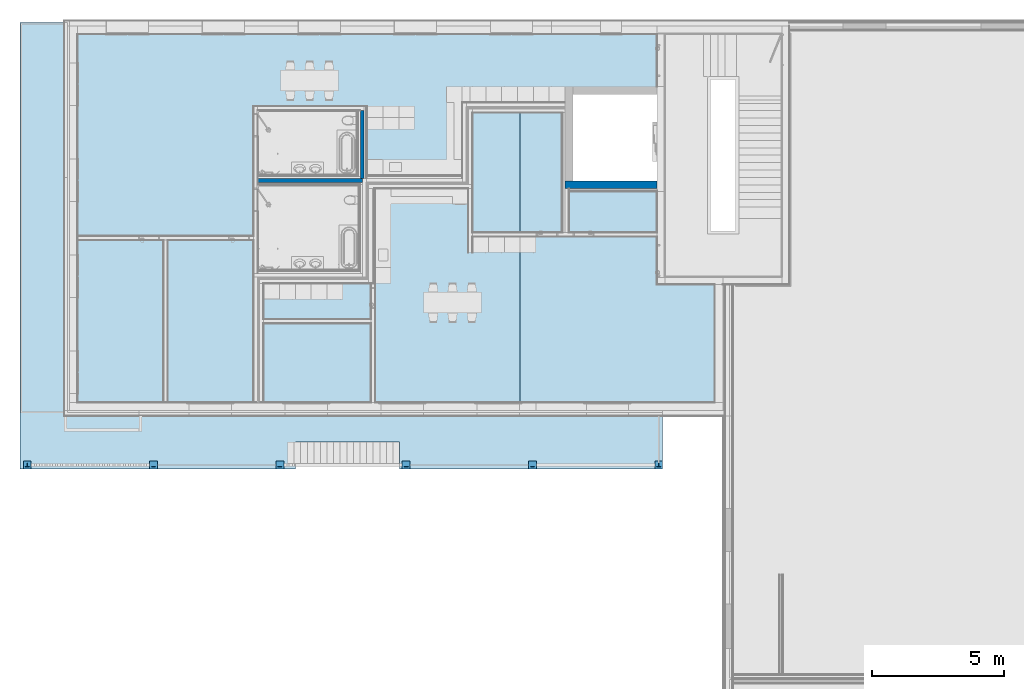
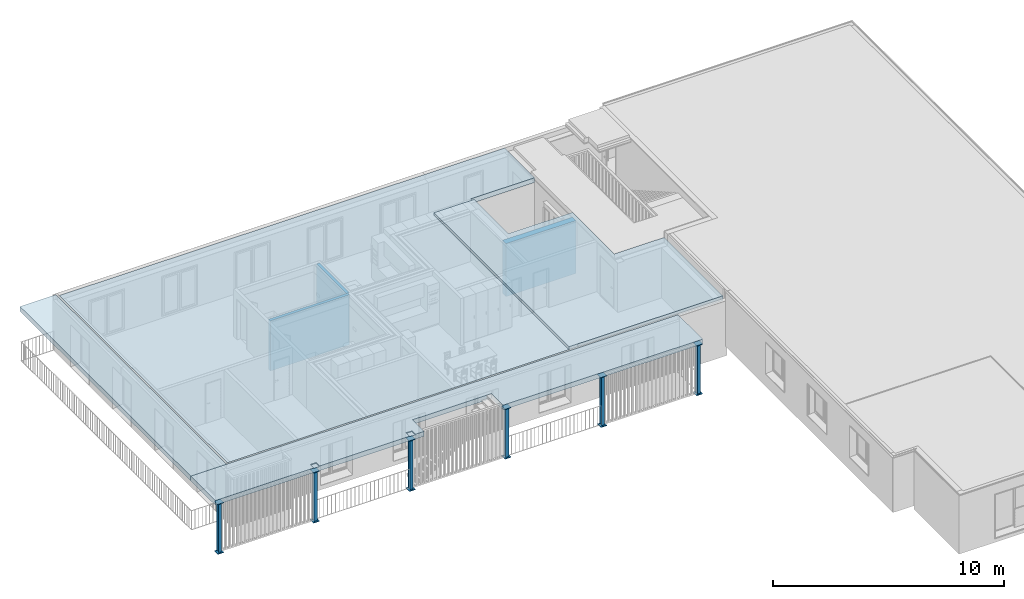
# One storey, part 1 of 34: 6 columns, 4 slabs, 3 walls.
"""IFC4 building model written with IfcOpenShell, lengths in millimetres."""

import ifcopenshell
import ifcopenshell.guid

model = None  # the IFC model being written
_history = None  # IfcOwnerHistory: only IFC2X3 demands one
_inside = {}  # id of a spatial element -> (the spatial element, [elements in it])
_under = {}  # id of a project, library or spatial element -> (it, [spatial elements below it])
_declared = {}  # id of a project -> (the project, [libraries it declares])
_typed = {}  # id of a type object -> (the type object, [elements of that type])
_made_of = {}  # id of a material, layer set ... -> (it, [elements and type objects made of it])


def new_model(schema):
    """Start an empty IFC model of exactly this schema.

    Asked for "IFC4X3", IfcOpenShell would pick the latest addendum, in which some entities
    have other attributes; the version numbers below select the first issue.
    IFC2X3 requires an IfcOwnerHistory on every rooted entity: one is made here for all.
    """
    global model, _history
    if schema == "IFC4X3":
        model = ifcopenshell.file(schema_version=(4, 3, 0, 0))
    else:
        model = ifcopenshell.file(schema=schema)
    _inside.clear()
    _under.clear()
    _declared.clear()
    _typed.clear()
    _made_of.clear()
    _history = None
    if model.schema == "IFC2X3":
        org = make("IfcOrganization", Name="unknown")
        user = make(
            "IfcPersonAndOrganization",
            ThePerson=make("IfcPerson", FamilyName="unknown"),
            TheOrganization=org,
        )
        app = make(
            "IfcApplication",
            ApplicationDeveloper=org,
            Version="unknown",
            ApplicationFullName="unknown",
            ApplicationIdentifier="unknown",
        )
        _history = make(
            "IfcOwnerHistory",
            OwningUser=user,
            OwningApplication=app,
            ChangeAction="ADDED",
            CreationDate=0,
        )
    return model


def make(cls, **values):
    """One entity of the class cls with the attributes given. An attribute that is None is left unset."""
    return model.create_entity(
        cls, **{name: value for name, value in values.items() if value is not None}
    )


def entity(cls, *values):
    """Any entity or typed value of the class cls, its attributes in the order of the schema. None: left unset."""
    e = model.create_entity(cls)
    for i, value in enumerate(values):
        if value is not None:
            e[i] = value
    return e


def rooted(cls, **values):
    """An entity with a GlobalId (a new one), such as an element, a storey or a relation."""
    return make(cls, GlobalId=ifcopenshell.guid.new(), OwnerHistory=_history, **values)


def si_unit(unit_type, name, prefix=None):
    """IfcSIUnit, for example si_unit("LENGTHUNIT", "METRE", prefix="MILLI")."""
    return make("IfcSIUnit", UnitType=unit_type, Prefix=prefix, Name=name)


def converted_unit(unit_type, name, factor, base, dimensions=None, offset=None):
    """IfcConversionBasedUnit, such as the inch: factor (a typed value) times the base unit."""
    return make(
        "IfcConversionBasedUnit"
        if offset is None
        else "IfcConversionBasedUnitWithOffset",
        ConversionOffset=offset,
        Dimensions=None
        if dimensions is None
        else entity("IfcDimensionalExponents", *dimensions),
        UnitType=unit_type,
        Name=name,
        ConversionFactor=make(
            "IfcMeasureWithUnit", ValueComponent=factor, UnitComponent=base
        ),
    )


def derived_unit(unit_type, elements):
    """IfcDerivedUnit: a product of units, each with its exponent."""
    return make(
        "IfcDerivedUnit",
        Elements=[
            make("IfcDerivedUnitElement", Unit=unit, Exponent=power)
            for unit, power in elements
        ],
        UnitType=unit_type,
    )


def assignment(units):
    """IfcUnitAssignment: the units of a project."""
    return None if units is None else make("IfcUnitAssignment", Units=units)


def point(xyz):
    """IfcCartesianPoint."""
    return None if xyz is None else make("IfcCartesianPoint", Coordinates=xyz)


def direction(xyz):
    """IfcDirection."""
    return None if xyz is None else make("IfcDirection", DirectionRatios=xyz)


def frame(location, z_axis=None, x_axis=None):
    """IfcAxis2Placement3D, a coordinate frame: its origin and axes. An axis left out is left unset."""
    return make(
        "IfcAxis2Placement3D",
        Location=point(location),
        Axis=direction(z_axis),
        RefDirection=direction(x_axis),
    )


def origin_with_axes():
    """The frame at (0, 0, 0) with the z axis (0, 0, 1) and the x axis (1, 0, 0) written out."""
    return frame((0.0, 0.0, 0.0), z_axis=(0.0, 0.0, 1.0), x_axis=(1.0, 0.0, 0.0))


def place(relative_to, where):
    """IfcLocalPlacement: puts the frame where relative to a parent placement (None: the world)."""
    return make(
        "IfcLocalPlacement", PlacementRelTo=relative_to, RelativePlacement=where
    )


def context(
    kind, dimensions, precision=None, world=None, true_north=None, identifier=None
):
    """IfcGeometricRepresentationContext, for example the 3D "Model" context."""
    return make(
        "IfcGeometricRepresentationContext",
        ContextIdentifier=identifier,
        ContextType=kind,
        CoordinateSpaceDimension=dimensions,
        Precision=precision,
        WorldCoordinateSystem=world,
        TrueNorth=true_north,
    )


def subcontext(parent, identifier, kind, view, scale=None):
    """IfcGeometricRepresentationSubContext, for example "Body" below "Model"."""
    return make(
        "IfcGeometricRepresentationSubContext",
        ContextIdentifier=identifier,
        ContextType=kind,
        ParentContext=parent,
        TargetScale=scale,
        TargetView=view,
    )


def project(units=None, contexts=None):
    """IfcProject with its units and contexts."""
    return rooted(
        "IfcProject",
        Name="project",
        RepresentationContexts=contexts,
        UnitsInContext=assignment(units),
    )


def spatial(cls, under=None, at=None, **own):
    """A site, building, storey or space (cls), placed at a placement, below another one or the project."""
    s = rooted(cls, ObjectPlacement=at, **own)
    if under is not None:
        _under.setdefault(under.id(), (under, []))[1].append(s)
    return s


def point_list(points):
    """IfcCartesianPointList2D or 3D."""
    cls = (
        "IfcCartesianPointList2D" if len(points[0]) == 2 else "IfcCartesianPointList3D"
    )
    return make(cls, CoordList=points)


def polygons(points, faces, closed=None, point_numbers=None):
    """IfcPolygonalFaceSet: a face is its outer loop, then its inner loops; points numbered from 1."""
    made = []
    for loops in faces:
        if len(loops) == 1:
            made.append(make("IfcIndexedPolygonalFace", CoordIndex=loops[0]))
        else:
            made.append(
                make(
                    "IfcIndexedPolygonalFaceWithVoids",
                    CoordIndex=loops[0],
                    InnerCoordIndices=loops[1:],
                )
            )
    return make(
        "IfcPolygonalFaceSet",
        Coordinates=point_list(points),
        Closed=closed,
        Faces=made,
        PnIndex=point_numbers,
    )


def shape(context_of_items, identifier, shape_type, items):
    """IfcShapeRepresentation: the items that make up one representation, for example the "Body"."""
    return make(
        "IfcShapeRepresentation",
        ContextOfItems=context_of_items,
        RepresentationIdentifier=identifier,
        RepresentationType=shape_type,
        Items=items,
    )


def material(Name=None, Category=None):
    """IfcMaterial."""
    return make("IfcMaterial", Name=Name, Category=Category)


def constituent(of_material, Name=None, Category=None, fraction=None):
    """IfcMaterialConstituent: one of the materials an element consists of."""
    return make(
        "IfcMaterialConstituent",
        Name=Name,
        Material=of_material,
        Fraction=fraction,
        Category=Category,
    )


def constituent_set(constituents=None, Name=None):
    """IfcMaterialConstituentSet."""
    return make(
        "IfcMaterialConstituentSet", Name=Name, MaterialConstituents=constituents
    )


def made_of(thing, what):
    """Note that an element or type object is made of a material, layer set ...; save() writes the relation."""
    if what is not None:
        _made_of.setdefault(what.id(), (what, []))[1].append(thing)
    return thing


def type_object(cls, material=None, **own):
    """A type object (cls), such as IfcWallType, which elements share."""
    return made_of(rooted(cls, **own), material)


def element(
    cls,
    number,
    at=None,
    inside=None,
    cuts=None,
    type_object=None,
    material=None,
    context=None,
    identifier="Body",
    shape_type=None,
    held_by="IfcProductDefinitionShape",
    body=None,
    shapes=None,
    **own,
):
    """One element of the class cls, such as IfcWall. Its Tag is "e" and its number.

    at: its placement. inside: the storey or other place that contains it. cuts: it is an
    opening in that element (IfcRelVoidsElement). A single representation is given by context,
    identifier, shape_type and body (its items); several are given by shapes. held_by: the class
    of the entity that holds the representations. save() writes the other relations.
    """
    e = rooted(cls, Tag="e%d" % number, ObjectPlacement=at, **own)
    if body is not None:
        shapes = [shape(context, identifier, shape_type, body)]
    if shapes is not None:
        e.Representation = make(held_by, Representations=shapes)
    if inside is not None:
        _inside.setdefault(inside.id(), (inside, []))[1].append(e)
    if cuts is not None:
        rooted(
            "IfcRelVoidsElement", RelatingBuildingElement=cuts, RelatedOpeningElement=e
        )
    if type_object is not None:
        _typed.setdefault(type_object.id(), (type_object, []))[1].append(e)
    return made_of(e, material)


def aggregate(whole, parts):
    """IfcRelAggregates: a whole, such as a stair, and the parts it consists of."""
    return rooted("IfcRelAggregates", RelatingObject=whole, RelatedObjects=parts)


def save(model, path):
    """Write the relations noted so far, then the file.

    IfcRelAggregates (storeys below a building ...), IfcRelContainedInSpatialStructure (elements
    in a storey), IfcRelDefinesByType, IfcRelAssociatesMaterial and IfcRelDeclares: one each for
    every whole, place, type object, material and project.
    """
    for whole, parts in _under.values():
        aggregate(whole, parts)
    for where, things in _inside.values():
        rooted(
            "IfcRelContainedInSpatialStructure",
            RelatedElements=things,
            RelatingStructure=where,
        )
    for kind, things in _typed.values():
        rooted("IfcRelDefinesByType", RelatedObjects=things, RelatingType=kind)
    for what, things in _made_of.values():
        rooted("IfcRelAssociatesMaterial", RelatedObjects=things, RelatingMaterial=what)
    for by, libraries in _declared.values():
        rooted("IfcRelDeclares", RelatingContext=by, RelatedDefinitions=libraries)
    model.write(path)


model = new_model("IFC4")

# Units and contexts
model_context = context("Model", 3, precision=0.01, world=origin_with_axes(), true_north=direction((0.0, 1.0)))
body_context = subcontext(model_context, "Body", "Model", "MODEL_VIEW")
ifc_project = project(units=[si_unit("LENGTHUNIT", "METRE", prefix="MILLI"), si_unit("AREAUNIT", "SQUARE_METRE"), si_unit("VOLUMEUNIT", "CUBIC_METRE"), converted_unit("PLANEANGLEUNIT", "DEGREE", entity("IfcPlaneAngleMeasure", 0.0174532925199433), si_unit("PLANEANGLEUNIT", "RADIAN"), dimensions=[0, 0, 0, 0, 0, 0, 0]), converted_unit("TIMEUNIT", "Year", entity("IfcTimeMeasure", 31557600.0), si_unit("TIMEUNIT", "SECOND"), dimensions=[0, 0, 1, 0, 0, 0, 0]), si_unit("MASSUNIT", "GRAM", prefix="KILO"), si_unit("THERMODYNAMICTEMPERATUREUNIT", "DEGREE_CELSIUS"), si_unit("LUMINOUSINTENSITYUNIT", "LUMEN"), si_unit("ENERGYUNIT", "JOULE", prefix="MEGA"), derived_unit("THERMALCONDUCTANCEUNIT", [(si_unit("POWERUNIT", "WATT"), 1), (si_unit("LENGTHUNIT", "METRE"), -1), (si_unit("THERMODYNAMICTEMPERATUREUNIT", "KELVIN"), -1)]), derived_unit("SPECIFICHEATCAPACITYUNIT", [(si_unit("ENERGYUNIT", "JOULE"), 1), (si_unit("MASSUNIT", "GRAM", prefix="KILO"), -1), (si_unit("THERMODYNAMICTEMPERATUREUNIT", "KELVIN"), -1)]), derived_unit("MASSDENSITYUNIT", [(si_unit("MASSUNIT", "GRAM", prefix="KILO"), 1), (si_unit("VOLUMEUNIT", "CUBIC_METRE"), -1)])], contexts=[model_context])

# Site, building, storey
site_placement = place(None, origin_with_axes())
site = spatial("IfcSite", under=ifc_project, at=site_placement, Name="Gelände", CompositionType="ELEMENT")
building_placement = place(site_placement, origin_with_axes())
building = spatial("IfcBuilding", under=site, at=building_placement, Name="Gebäude", CompositionType="ELEMENT")
storey_placement = place(building_placement, frame((0.0, 0.0, 2900.0), z_axis=(0.0, 0.0, 1.0), x_axis=(1.0, 0.0, 0.0)))
storey = spatial("IfcBuildingStorey", under=building, at=storey_placement, Name="1.OG", CompositionType="ELEMENT", Elevation=2900.0)

# Columns
ifc_material_1 = material(Name="Stahl")
ifc_constituent_1 = constituent(ifc_material_1, Name="Stahl 1")
ifc_constituent_2 = constituent(ifc_material_1, Name="Stahl 2")
ifc_constituent_3 = constituent(ifc_material_1, Name="Stahl 3")
ifc_constituent_set_1 = constituent_set(constituents=[ifc_constituent_1, ifc_constituent_2, ifc_constituent_3])
column_type_1 = type_object("IfcColumnType", Name="Verschiedene Strukturen - 3 Segmente - 300 x 300 x 2650 (30+2590+30)", PredefinedType="NOTDEFINED")
column_1_placement = place(storey_placement, frame((15487.99581849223, 21097.59674077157, 0.0), z_axis=(0.0, 0.0, 1.0), x_axis=(1.0, 0.0, 0.0)))
element("IfcColumn", 1, at=column_1_placement, inside=storey, type_object=column_type_1, material=ifc_constituent_set_1, Name="Stütze-015", PredefinedType="NOTDEFINED", context=body_context, shape_type="Tessellation", body=[
    polygons([(-150.0000000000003, -149.9999999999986, 29.9999999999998), (-150.0000000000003, -149.9999999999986, 0.0), (150.0000000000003, -149.9999999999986, 0.0), (150.0000000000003, -149.9999999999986, 29.9999999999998), (-150.0000000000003, 149.9999999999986, 29.9999999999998), (-150.0000000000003, 149.9999999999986, 0.0), (150.0000000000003, 149.9999999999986, 0.0), (150.0000000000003, 149.9999999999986, 29.9999999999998)], [[[1, 2, 3, 4]], [[5, 6, 2, 1]], [[3, 2, 6, 7]], [[4, 3, 7, 8]], [[5, 1, 4, 8]], [[8, 7, 6, 5]]], closed=True),
    polygons([(-80.00000000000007, 76.00000000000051, 2619.999948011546), (-80.00000000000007, 76.00000000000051, 29.9999999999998), (-80.00000000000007, 67.00000000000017, 29.9999999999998), (-80.00000000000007, 67.00000000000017, 2619.999948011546), (80.00000000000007, 76.00000000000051, 2619.999948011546), (80.00000000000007, 76.00000000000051, 29.9999999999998), (80.00000000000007, 67.00000000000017, 29.9999999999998), (3.000000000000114, 67.00000000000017, 29.9999999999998), (3.000000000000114, -67.00000000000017, 29.9999999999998), (80.00000000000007, -67.00000000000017, 29.9999999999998), (80.00000000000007, -76.00000000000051, 29.9999999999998), (-80.00000000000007, -76.00000000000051, 29.9999999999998), (-80.00000000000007, -67.00000000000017, 29.9999999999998), (-3.000000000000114, -67.00000000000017, 29.9999999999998), (-3.000000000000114, 67.00000000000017, 29.9999999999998), (-3.000000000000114, 67.00000000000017, 2619.999948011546), (-3.000000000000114, -67.00000000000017, 2619.999948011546), (-80.00000000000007, -67.00000000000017, 2619.999948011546), (-80.00000000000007, -76.00000000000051, 2619.999948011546), (80.00000000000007, -76.00000000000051, 2619.999948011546), (80.00000000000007, -67.00000000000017, 2619.999948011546), (3.000000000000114, -67.00000000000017, 2619.999948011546), (3.000000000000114, 67.00000000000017, 2619.999948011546), (80.00000000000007, 67.00000000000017, 2619.999948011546)], [[[1, 2, 3, 4]], [[5, 6, 2, 1]], [[3, 2, 6, 7, 8, 9, 10, 11, 12, 13, 14, 15]], [[4, 3, 15, 16]], [[5, 1, 4, 16, 17, 18, 19, 20, 21, 22, 23, 24]], [[24, 7, 6, 5]], [[23, 8, 7, 24]], [[22, 9, 8, 23]], [[21, 10, 9, 22]], [[20, 11, 10, 21]], [[19, 12, 11, 20]], [[18, 13, 12, 19]], [[17, 14, 13, 18]], [[16, 15, 14, 17]]], closed=True),
    polygons([(-150.0000000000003, -149.9999999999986, 2649.999948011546), (-150.0000000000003, -149.9999999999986, 2619.999948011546), (150.0000000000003, -149.9999999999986, 2619.999948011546), (150.0000000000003, -149.9999999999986, 2649.999948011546), (-150.0000000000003, 149.9999999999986, 2649.999948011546), (-150.0000000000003, 149.9999999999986, 2619.999948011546), (150.0000000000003, 149.9999999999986, 2619.999948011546), (150.0000000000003, 149.9999999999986, 2649.999948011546)], [[[1, 2, 3, 4]], [[5, 6, 2, 1]], [[3, 2, 6, 7]], [[4, 3, 7, 8]], [[5, 1, 4, 8]], [[8, 7, 6, 5]]], closed=True),
])
ifc_constituent_4 = constituent(ifc_material_1, Name="Stahl 1")
ifc_constituent_5 = constituent(ifc_material_1, Name="Stahl 2")
ifc_constituent_6 = constituent(ifc_material_1, Name="Stahl 3")
ifc_constituent_set_2 = constituent_set(constituents=[ifc_constituent_4, ifc_constituent_5, ifc_constituent_6])
column_2_placement = place(storey_placement, frame((10697.19581849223, 21097.59674077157, 0.0), z_axis=(0.0, 0.0, 1.0), x_axis=(1.0, 0.0, 0.0)))
element("IfcColumn", 2, at=column_2_placement, inside=storey, type_object=column_type_1, material=ifc_constituent_set_2, Name="Stütze-015", PredefinedType="NOTDEFINED", context=body_context, shape_type="Tessellation", body=[
    polygons([(-150.0000000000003, -149.9999999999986, 29.9999999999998), (-150.0000000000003, -149.9999999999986, 0.0), (150.0000000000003, -149.9999999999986, 0.0), (150.0000000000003, -149.9999999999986, 29.9999999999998), (-150.0000000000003, 149.9999999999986, 29.9999999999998), (-150.0000000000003, 149.9999999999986, 0.0), (150.0000000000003, 149.9999999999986, 0.0), (150.0000000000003, 149.9999999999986, 29.9999999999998)], [[[1, 2, 3, 4]], [[5, 6, 2, 1]], [[3, 2, 6, 7]], [[4, 3, 7, 8]], [[5, 1, 4, 8]], [[8, 7, 6, 5]]], closed=True),
    polygons([(-80.00000000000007, 76.00000000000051, 2619.999948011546), (-80.00000000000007, 76.00000000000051, 29.9999999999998), (-80.00000000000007, 67.00000000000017, 29.9999999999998), (-80.00000000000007, 67.00000000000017, 2619.999948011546), (80.00000000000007, 76.00000000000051, 2619.999948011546), (80.00000000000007, 76.00000000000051, 29.9999999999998), (80.00000000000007, 67.00000000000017, 29.9999999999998), (3.000000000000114, 67.00000000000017, 29.9999999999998), (3.000000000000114, -67.00000000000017, 29.9999999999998), (80.00000000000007, -67.00000000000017, 29.9999999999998), (80.00000000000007, -76.00000000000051, 29.9999999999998), (-80.00000000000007, -76.00000000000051, 29.9999999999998), (-80.00000000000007, -67.00000000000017, 29.9999999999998), (-3.000000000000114, -67.00000000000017, 29.9999999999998), (-3.000000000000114, 67.00000000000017, 29.9999999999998), (-3.000000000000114, 67.00000000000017, 2619.999948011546), (-3.000000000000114, -67.00000000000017, 2619.999948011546), (-80.00000000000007, -67.00000000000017, 2619.999948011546), (-80.00000000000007, -76.00000000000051, 2619.999948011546), (80.00000000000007, -76.00000000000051, 2619.999948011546), (80.00000000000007, -67.00000000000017, 2619.999948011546), (3.000000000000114, -67.00000000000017, 2619.999948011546), (3.000000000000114, 67.00000000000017, 2619.999948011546), (80.00000000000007, 67.00000000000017, 2619.999948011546)], [[[1, 2, 3, 4]], [[5, 6, 2, 1]], [[3, 2, 6, 7, 8, 9, 10, 11, 12, 13, 14, 15]], [[4, 3, 15, 16]], [[5, 1, 4, 16, 17, 18, 19, 20, 21, 22, 23, 24]], [[24, 7, 6, 5]], [[23, 8, 7, 24]], [[22, 9, 8, 23]], [[21, 10, 9, 22]], [[20, 11, 10, 21]], [[19, 12, 11, 20]], [[18, 13, 12, 19]], [[17, 14, 13, 18]], [[16, 15, 14, 17]]], closed=True),
    polygons([(-150.0000000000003, -149.9999999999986, 2649.999948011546), (-150.0000000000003, -149.9999999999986, 2619.999948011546), (150.0000000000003, -149.9999999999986, 2619.999948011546), (150.0000000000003, -149.9999999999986, 2649.999948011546), (-150.0000000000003, 149.9999999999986, 2649.999948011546), (-150.0000000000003, 149.9999999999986, 2619.999948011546), (150.0000000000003, 149.9999999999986, 2619.999948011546), (150.0000000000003, 149.9999999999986, 2649.999948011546)], [[[1, 2, 3, 4]], [[5, 6, 2, 1]], [[3, 2, 6, 7]], [[4, 3, 7, 8]], [[5, 1, 4, 8]], [[8, 7, 6, 5]]], closed=True),
])
ifc_constituent_7 = constituent(ifc_material_1, Name="Stahl 1")
ifc_constituent_8 = constituent(ifc_material_1, Name="Stahl 2")
ifc_constituent_9 = constituent(ifc_material_1, Name="Stahl 3")
ifc_constituent_set_3 = constituent_set(constituents=[ifc_constituent_7, ifc_constituent_8, ifc_constituent_9])
column_3_placement = place(storey_placement, frame((5906.39581849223, 21097.59674077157, 0.0), z_axis=(0.0, 0.0, 1.0), x_axis=(1.0, 0.0, 0.0)))
element("IfcColumn", 3, at=column_3_placement, inside=storey, type_object=column_type_1, material=ifc_constituent_set_3, Name="Stütze-015", PredefinedType="NOTDEFINED", context=body_context, shape_type="Tessellation", body=[
    polygons([(-150.0000000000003, -149.9999999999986, 29.9999999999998), (-150.0000000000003, -149.9999999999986, 0.0), (150.0000000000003, -149.9999999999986, 0.0), (150.0000000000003, -149.9999999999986, 29.9999999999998), (-150.0000000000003, 149.9999999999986, 29.9999999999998), (-150.0000000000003, 149.9999999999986, 0.0), (150.0000000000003, 149.9999999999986, 0.0), (150.0000000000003, 149.9999999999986, 29.9999999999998)], [[[1, 2, 3, 4]], [[5, 6, 2, 1]], [[3, 2, 6, 7]], [[4, 3, 7, 8]], [[5, 1, 4, 8]], [[8, 7, 6, 5]]], closed=True),
    polygons([(-80.00000000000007, 76.00000000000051, 2619.999999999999), (-80.00000000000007, 76.00000000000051, 29.9999999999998), (-80.00000000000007, 67.00000000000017, 29.9999999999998), (-80.00000000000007, 67.00000000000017, 2619.999999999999), (80.00000000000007, 76.00000000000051, 2619.999999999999), (80.00000000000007, 76.00000000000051, 29.9999999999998), (80.00000000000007, 67.00000000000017, 29.9999999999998), (3.000000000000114, 67.00000000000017, 29.9999999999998), (3.000000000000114, -67.00000000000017, 29.9999999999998), (80.00000000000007, -67.00000000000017, 29.9999999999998), (80.00000000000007, -76.00000000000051, 29.9999999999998), (-80.00000000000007, -76.00000000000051, 29.9999999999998), (-80.00000000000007, -67.00000000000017, 29.9999999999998), (-3.000000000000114, -67.00000000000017, 29.9999999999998), (-3.000000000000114, 67.00000000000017, 29.9999999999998), (-3.000000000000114, 67.00000000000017, 2619.999999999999), (-3.000000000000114, -67.00000000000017, 2619.999999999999), (-80.00000000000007, -67.00000000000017, 2619.999999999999), (-80.00000000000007, -76.00000000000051, 2619.999999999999), (80.00000000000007, -76.00000000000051, 2619.999999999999), (80.00000000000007, -67.00000000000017, 2619.999999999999), (3.000000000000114, -67.00000000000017, 2619.999999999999), (3.000000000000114, 67.00000000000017, 2619.999999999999), (80.00000000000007, 67.00000000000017, 2619.999999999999)], [[[1, 2, 3, 4]], [[5, 6, 2, 1]], [[3, 2, 6, 7, 8, 9, 10, 11, 12, 13, 14, 15]], [[4, 3, 15, 16]], [[5, 1, 4, 16, 17, 18, 19, 20, 21, 22, 23, 24]], [[24, 7, 6, 5]], [[23, 8, 7, 24]], [[22, 9, 8, 23]], [[21, 10, 9, 22]], [[20, 11, 10, 21]], [[19, 12, 11, 20]], [[18, 13, 12, 19]], [[17, 14, 13, 18]], [[16, 15, 14, 17]]], closed=True),
    polygons([(-150.0000000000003, -149.9999999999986, 2649.999999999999), (-150.0000000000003, -149.9999999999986, 2619.999999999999), (150.0000000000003, -149.9999999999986, 2619.999999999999), (150.0000000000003, -149.9999999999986, 2649.999999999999), (-150.0000000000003, 149.9999999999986, 2649.999999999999), (-150.0000000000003, 149.9999999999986, 2619.999999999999), (150.0000000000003, 149.9999999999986, 2619.999999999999), (150.0000000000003, 149.9999999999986, 2649.999999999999)], [[[1, 2, 3, 4]], [[5, 6, 2, 1]], [[3, 2, 6, 7]], [[4, 3, 7, 8]], [[5, 1, 4, 8]], [[8, 7, 6, 5]]], closed=True),
])
ifc_constituent_10 = constituent(ifc_material_1, Name="Stahl 1")
ifc_constituent_11 = constituent(ifc_material_1, Name="Stahl 2")
ifc_constituent_12 = constituent(ifc_material_1, Name="Stahl 3")
ifc_constituent_set_4 = constituent_set(constituents=[ifc_constituent_10, ifc_constituent_11, ifc_constituent_12])
column_4_placement = place(storey_placement, frame((-8466.00418150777, 21097.59674077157, 0.0), z_axis=(0.0, 0.0, 1.0), x_axis=(1.0, 0.0, 0.0)))
element("IfcColumn", 4, at=column_4_placement, inside=storey, type_object=column_type_1, material=ifc_constituent_set_4, Name="Stütze-015", PredefinedType="NOTDEFINED", context=body_context, shape_type="Tessellation", body=[
    polygons([(-150.0000000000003, -149.9999999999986, 29.9999999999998), (-150.0000000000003, -149.9999999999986, 0.0), (150.0000000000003, -149.9999999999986, 0.0), (150.0000000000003, -149.9999999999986, 29.9999999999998), (-150.0000000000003, 149.9999999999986, 29.9999999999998), (-150.0000000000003, 149.9999999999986, 0.0), (150.0000000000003, 149.9999999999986, 0.0), (150.0000000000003, 149.9999999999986, 29.9999999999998)], [[[1, 2, 3, 4]], [[5, 6, 2, 1]], [[3, 2, 6, 7]], [[4, 3, 7, 8]], [[5, 1, 4, 8]], [[8, 7, 6, 5]]], closed=True),
    polygons([(-80.00000000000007, 76.00000000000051, 2619.999948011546), (-80.00000000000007, 76.00000000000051, 29.9999999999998), (-80.00000000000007, 67.00000000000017, 29.9999999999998), (-80.00000000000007, 67.00000000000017, 2619.999948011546), (80.00000000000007, 76.00000000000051, 2619.999948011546), (80.00000000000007, 76.00000000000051, 29.9999999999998), (80.00000000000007, 67.00000000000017, 29.9999999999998), (3.000000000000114, 67.00000000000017, 29.9999999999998), (3.000000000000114, -67.00000000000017, 29.9999999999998), (80.00000000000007, -67.00000000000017, 29.9999999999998), (80.00000000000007, -76.00000000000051, 29.9999999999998), (-80.00000000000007, -76.00000000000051, 29.9999999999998), (-80.00000000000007, -67.00000000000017, 29.9999999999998), (-3.000000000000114, -67.00000000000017, 29.9999999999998), (-3.000000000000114, 67.00000000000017, 29.9999999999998), (-3.000000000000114, 67.00000000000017, 2619.999948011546), (-3.000000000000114, -67.00000000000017, 2619.999948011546), (-80.00000000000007, -67.00000000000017, 2619.999948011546), (-80.00000000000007, -76.00000000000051, 2619.999948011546), (80.00000000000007, -76.00000000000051, 2619.999948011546), (80.00000000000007, -67.00000000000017, 2619.999948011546), (3.000000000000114, -67.00000000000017, 2619.999948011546), (3.000000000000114, 67.00000000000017, 2619.999948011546), (80.00000000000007, 67.00000000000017, 2619.999948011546)], [[[1, 2, 3, 4]], [[5, 6, 2, 1]], [[3, 2, 6, 7, 8, 9, 10, 11, 12, 13, 14, 15]], [[4, 3, 15, 16]], [[5, 1, 4, 16, 17, 18, 19, 20, 21, 22, 23, 24]], [[24, 7, 6, 5]], [[23, 8, 7, 24]], [[22, 9, 8, 23]], [[21, 10, 9, 22]], [[20, 11, 10, 21]], [[19, 12, 11, 20]], [[18, 13, 12, 19]], [[17, 14, 13, 18]], [[16, 15, 14, 17]]], closed=True),
    polygons([(-150.0000000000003, -149.9999999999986, 2649.999948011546), (-150.0000000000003, -149.9999999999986, 2619.999948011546), (150.0000000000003, -149.9999999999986, 2619.999948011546), (150.0000000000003, -149.9999999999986, 2649.999948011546), (-150.0000000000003, 149.9999999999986, 2649.999948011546), (-150.0000000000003, 149.9999999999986, 2619.999948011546), (150.0000000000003, 149.9999999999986, 2619.999948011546), (150.0000000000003, 149.9999999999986, 2649.999948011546)], [[[1, 2, 3, 4]], [[5, 6, 2, 1]], [[3, 2, 6, 7]], [[4, 3, 7, 8]], [[5, 1, 4, 8]], [[8, 7, 6, 5]]], closed=True),
])
ifc_constituent_13 = constituent(ifc_material_1, Name="Stahl 1")
ifc_constituent_14 = constituent(ifc_material_1, Name="Stahl 2")
ifc_constituent_15 = constituent(ifc_material_1, Name="Stahl 3")
ifc_constituent_set_5 = constituent_set(constituents=[ifc_constituent_13, ifc_constituent_14, ifc_constituent_15])
column_type_2 = type_object("IfcColumnType", Name="Verschiedene Strukturen - 3 Segmente - 300 x 300 x 2680 (30+2620+30)", PredefinedType="NOTDEFINED")
column_5_placement = place(storey_placement, frame((1115.595818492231, 21097.59674077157, -30.00005198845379), z_axis=(0.0, 0.0, 1.0), x_axis=(1.0, 0.0, 0.0)))
element("IfcColumn", 5, at=column_5_placement, inside=storey, type_object=column_type_2, material=ifc_constituent_set_5, Name="Stütze-015", PredefinedType="NOTDEFINED", context=body_context, shape_type="Tessellation", body=[
    polygons([(-149.9999999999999, -149.9999999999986, 29.9999999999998), (-149.9999999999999, -149.9999999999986, 0.0), (149.9999999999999, -149.9999999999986, 0.0), (149.9999999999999, -149.9999999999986, 29.9999999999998), (-149.9999999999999, 149.9999999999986, 29.9999999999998), (-149.9999999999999, 149.9999999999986, 0.0), (149.9999999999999, 149.9999999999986, 0.0), (149.9999999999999, 149.9999999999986, 29.9999999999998)], [[[1, 2, 3, 4]], [[5, 6, 2, 1]], [[3, 2, 6, 7]], [[4, 3, 7, 8]], [[5, 1, 4, 8]], [[8, 7, 6, 5]]], closed=True),
    polygons([(-80.00000000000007, 76.00000000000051, 2649.999999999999), (-80.00000000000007, 76.00000000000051, 29.9999999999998), (-80.00000000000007, 67.00000000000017, 29.9999999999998), (-80.00000000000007, 67.00000000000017, 2649.999999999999), (80.00000000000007, 76.00000000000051, 2649.999999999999), (80.00000000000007, 76.00000000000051, 29.9999999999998), (80.00000000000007, 67.00000000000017, 29.9999999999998), (2.999999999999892, 67.00000000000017, 29.9999999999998), (2.999999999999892, -67.00000000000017, 29.9999999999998), (80.00000000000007, -67.00000000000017, 29.9999999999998), (80.00000000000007, -76.00000000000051, 29.9999999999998), (-80.00000000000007, -76.00000000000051, 29.9999999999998), (-80.00000000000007, -67.00000000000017, 29.9999999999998), (-2.999999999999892, -67.00000000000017, 29.9999999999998), (-2.999999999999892, 67.00000000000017, 29.9999999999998), (-2.999999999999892, 67.00000000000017, 2649.999999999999), (-2.999999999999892, -67.00000000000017, 2649.999999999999), (-80.00000000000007, -67.00000000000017, 2649.999999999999), (-80.00000000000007, -76.00000000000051, 2649.999999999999), (80.00000000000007, -76.00000000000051, 2649.999999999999), (80.00000000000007, -67.00000000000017, 2649.999999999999), (2.999999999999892, -67.00000000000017, 2649.999999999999), (2.999999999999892, 67.00000000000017, 2649.999999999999), (80.00000000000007, 67.00000000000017, 2649.999999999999)], [[[1, 2, 3, 4]], [[5, 6, 2, 1]], [[3, 2, 6, 7, 8, 9, 10, 11, 12, 13, 14, 15]], [[4, 3, 15, 16]], [[5, 1, 4, 16, 17, 18, 19, 20, 21, 22, 23, 24]], [[24, 7, 6, 5]], [[23, 8, 7, 24]], [[22, 9, 8, 23]], [[21, 10, 9, 22]], [[20, 11, 10, 21]], [[19, 12, 11, 20]], [[18, 13, 12, 19]], [[17, 14, 13, 18]], [[16, 15, 14, 17]]], closed=True),
    polygons([(-149.9999999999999, -149.9999999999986, 2679.999999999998), (-149.9999999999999, -149.9999999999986, 2649.999999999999), (149.9999999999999, -149.9999999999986, 2649.999999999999), (149.9999999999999, -149.9999999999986, 2679.999999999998), (-149.9999999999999, 149.9999999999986, 2679.999999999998), (-149.9999999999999, 149.9999999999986, 2649.999999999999), (149.9999999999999, 149.9999999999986, 2649.999999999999), (149.9999999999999, 149.9999999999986, 2679.999999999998)], [[[1, 2, 3, 4]], [[5, 6, 2, 1]], [[3, 2, 6, 7]], [[4, 3, 7, 8]], [[5, 1, 4, 8]], [[8, 7, 6, 5]]], closed=True),
])
ifc_constituent_16 = constituent(ifc_material_1, Name="Stahl 1")
ifc_constituent_17 = constituent(ifc_material_1, Name="Stahl 2")
ifc_constituent_18 = constituent(ifc_material_1, Name="Stahl 3")
ifc_constituent_set_6 = constituent_set(constituents=[ifc_constituent_16, ifc_constituent_17, ifc_constituent_18])
column_6_placement = place(storey_placement, frame((-3675.204181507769, 21097.59674077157, -30.00000000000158), z_axis=(0.0, 0.0, 1.0), x_axis=(1.0, 0.0, 0.0)))
element("IfcColumn", 6, at=column_6_placement, inside=storey, type_object=column_type_2, material=ifc_constituent_set_6, Name="Stütze-015", PredefinedType="NOTDEFINED", context=body_context, shape_type="Tessellation", body=[
    polygons([(-149.9999999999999, -149.9999999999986, 29.9999999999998), (-149.9999999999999, -149.9999999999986, 0.0), (149.9999999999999, -149.9999999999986, 0.0), (149.9999999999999, -149.9999999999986, 29.9999999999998), (-149.9999999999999, 149.9999999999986, 29.9999999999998), (-149.9999999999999, 149.9999999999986, 0.0), (149.9999999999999, 149.9999999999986, 0.0), (149.9999999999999, 149.9999999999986, 29.9999999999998)], [[[1, 2, 3, 4]], [[5, 6, 2, 1]], [[3, 2, 6, 7]], [[4, 3, 7, 8]], [[5, 1, 4, 8]], [[8, 7, 6, 5]]], closed=True),
    polygons([(-80.00000000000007, 76.00000000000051, 2649.999999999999), (-80.00000000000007, 76.00000000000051, 29.9999999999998), (-80.00000000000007, 67.00000000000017, 29.9999999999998), (-80.00000000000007, 67.00000000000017, 2649.999999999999), (80.00000000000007, 76.00000000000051, 2649.999999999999), (80.00000000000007, 76.00000000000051, 29.9999999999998), (80.00000000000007, 67.00000000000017, 29.9999999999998), (3.000000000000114, 67.00000000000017, 29.9999999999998), (3.000000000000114, -67.00000000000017, 29.9999999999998), (80.00000000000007, -67.00000000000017, 29.9999999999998), (80.00000000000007, -76.00000000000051, 29.9999999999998), (-80.00000000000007, -76.00000000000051, 29.9999999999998), (-80.00000000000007, -67.00000000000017, 29.9999999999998), (-3.000000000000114, -67.00000000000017, 29.9999999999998), (-3.000000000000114, 67.00000000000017, 29.9999999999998), (-3.000000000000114, 67.00000000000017, 2649.999999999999), (-3.000000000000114, -67.00000000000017, 2649.999999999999), (-80.00000000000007, -67.00000000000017, 2649.999999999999), (-80.00000000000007, -76.00000000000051, 2649.999999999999), (80.00000000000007, -76.00000000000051, 2649.999999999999), (80.00000000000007, -67.00000000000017, 2649.999999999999), (3.000000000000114, -67.00000000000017, 2649.999999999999), (3.000000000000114, 67.00000000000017, 2649.999999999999), (80.00000000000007, 67.00000000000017, 2649.999999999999)], [[[1, 2, 3, 4]], [[5, 6, 2, 1]], [[3, 2, 6, 7, 8, 9, 10, 11, 12, 13, 14, 15]], [[4, 3, 15, 16]], [[5, 1, 4, 16, 17, 18, 19, 20, 21, 22, 23, 24]], [[24, 7, 6, 5]], [[23, 8, 7, 24]], [[22, 9, 8, 23]], [[21, 10, 9, 22]], [[20, 11, 10, 21]], [[19, 12, 11, 20]], [[18, 13, 12, 19]], [[17, 14, 13, 18]], [[16, 15, 14, 17]]], closed=True),
    polygons([(-149.9999999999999, -149.9999999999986, 2679.999999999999), (-149.9999999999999, -149.9999999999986, 2649.999999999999), (149.9999999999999, -149.9999999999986, 2649.999999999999), (149.9999999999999, -149.9999999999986, 2679.999999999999), (-149.9999999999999, 149.9999999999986, 2679.999999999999), (-149.9999999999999, 149.9999999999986, 2649.999999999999), (149.9999999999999, 149.9999999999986, 2649.999999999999), (149.9999999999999, 149.9999999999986, 2679.999999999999)], [[[1, 2, 3, 4]], [[5, 6, 2, 1]], [[3, 2, 6, 7]], [[4, 3, 7, 8]], [[5, 1, 4, 8]], [[8, 7, 6, 5]]], closed=True),
])

# Slabs
ifc_material_2 = material(Name="Beton bewehrt")
ifc_constituent_19 = constituent(ifc_material_2, Name="Beton bewehrt")
ifc_constituent_set_7 = constituent_set(constituents=[ifc_constituent_19], Name="Geschossdecke Typ 03")
slab_type_1 = type_object("IfcSlabType", Name="Geschossdecke Typ 03 250", PredefinedType="NOTDEFINED")
slab_1_placement = place(storey_placement, frame((-6861.004181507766, 37737.59728131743, 2899.999948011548), z_axis=(0.0, 0.0, 1.0), x_axis=(1.0, 0.0, 0.0)))
element("IfcSlab", 7, at=slab_1_placement, inside=storey, type_object=slab_type_1, material=ifc_constituent_set_7, Name="Deckennr.-073", PredefinedType="NOTDEFINED", context=body_context, shape_type="Tessellation", body=[
    polygons([(0.0, 0.0, 0.0), (0.0, 0.0, -250.0), (0.0, -14580.00054054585, -250.0), (0.0, -14580.00054054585, 0.0), (22280.00162627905, 0.0, 0.0), (22280.00162627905, 0.0, -250.0), (22280.00162627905, -2589.999999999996, -250.0), (19090.00162627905, -2589.999999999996, -250.0), (19090.00162627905, -3280.000000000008, -250.0), (17690.00162627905, -3280.000000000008, -250.0), (17690.00162627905, -14580.00054054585, -250.0), (17690.00162627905, -14580.00054054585, 0.0), (17690.00162627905, -3280.000000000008, 0.0), (19090.00162627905, -3280.000000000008, 0.0), (19090.00162627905, -2589.999999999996, 0.0), (22280.00162627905, -2589.999999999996, 0.0)], [[[1, 2, 3, 4]], [[5, 6, 2, 1]], [[3, 2, 6, 7, 8, 9, 10, 11]], [[4, 3, 11, 12]], [[5, 1, 4, 12, 13, 14, 15, 16]], [[16, 7, 6, 5]], [[15, 8, 7, 16]], [[14, 9, 8, 15]], [[13, 10, 9, 14]], [[12, 11, 10, 13]]], closed=True),
])
ifc_constituent_20 = constituent(ifc_material_2, Name="Beton bewehrt")
ifc_constituent_set_8 = constituent_set(constituents=[ifc_constituent_20], Name="Geschossdecke Typ 03")
slab_2_placement = place(storey_placement, frame((10228.99744477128, 23157.59674077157, 3050.0), z_axis=(0.0, 0.0, 1.0), x_axis=(1.0, 0.0, 0.0)))
element("IfcSlab", 8, at=slab_2_placement, inside=storey, type_object=slab_type_1, material=ifc_constituent_set_8, Name="Deckennr.-073", PredefinedType="NOTDEFINED", context=body_context, shape_type="Tessellation", body=[
    polygons([(0.0, 0.0, 0.0), (0.0, 0.0, -250.0), (7690.999999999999, 0.0, -250.0), (7690.999999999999, 0.0, 0.0), (0.0, 11690.00054054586, 0.0), (0.0, 11690.00054054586, -250.0), (1999.99997604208, 11690.00054054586, -250.0), (1999.99997604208, 8715.000628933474, -250.0), (5200.000000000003, 8715.000628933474, -250.0), (5200.000000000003, 5090.000608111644, -250.0), (7690.999999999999, 5090.000608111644, -250.0), (7690.999999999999, 5090.000608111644, 0.0), (5200.000000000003, 5090.000608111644, 0.0), (5200.000000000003, 8715.000628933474, 0.0), (1999.99997604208, 8715.000628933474, 0.0), (1999.99997604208, 11690.00054054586, 0.0)], [[[1, 2, 3, 4]], [[5, 6, 2, 1]], [[3, 2, 6, 7, 8, 9, 10, 11]], [[4, 3, 11, 12]], [[5, 1, 4, 12, 13, 14, 15, 16]], [[16, 7, 6, 5]], [[15, 8, 7, 16]], [[14, 9, 8, 15]], [[13, 10, 9, 14]], [[12, 11, 10, 13]]], closed=True),
])
ifc_constituent_21 = constituent(ifc_material_2, Name="Beton bewehrt")
ifc_constituent_set_9 = constituent_set(constituents=[ifc_constituent_21], Name="Balkon Typ 01")
slab_type_2 = type_object("IfcSlabType", Name="Balkon Typ 01 250", PredefinedType="NOTDEFINED")
slab_3_placement = place(storey_placement, frame((-8741.00418150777, 37867.5972813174, 2899.999999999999), z_axis=(0.0, 0.0, 1.0), x_axis=(1.0, 0.0, 0.0)))
element("IfcSlab", 9, at=slab_3_placement, inside=storey, type_object=slab_type_2, material=ifc_constituent_set_9, Name="Deckennr.-073", PredefinedType="NOTDEFINED", context=body_context, shape_type="Tessellation", body=[
    polygons([(0.0, 0.0, 0.0), (0.0, 0.0, -250.0), (0.0, -14790.00054054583, -250.0), (0.0, -14790.00054054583, 0.0), (1800.000000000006, 0.0, 0.0), (1800.000000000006, 0.0, -250.0), (1800.000000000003, -14790.00054054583, -250.0), (1800.000000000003, -14790.00054054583, 0.0)], [[[1, 2, 3, 4]], [[5, 6, 2, 1]], [[3, 2, 6, 7]], [[4, 3, 7, 8]], [[5, 1, 4, 8]], [[8, 7, 6, 5]]], closed=True),
])
ifc_constituent_22 = constituent(ifc_material_2, Name="Beton bewehrt")
ifc_constituent_set_10 = constituent_set(constituents=[ifc_constituent_22], Name="Balkon Typ 01")
slab_4_placement = place(storey_placement, frame((-8741.00418150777, 23077.5967061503, 2899.999999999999), z_axis=(0.0, 0.0, 1.0), x_axis=(1.0, 0.0, 0.0)))
element("IfcSlab", 10, at=slab_4_placement, inside=storey, type_object=slab_type_2, material=ifc_constituent_set_10, Name="Deckennr.-073", PredefinedType="NOTDEFINED", context=body_context, shape_type="Tessellation", body=[
    polygons([(0.0, -2129.999965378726, 0.0), (4915.800000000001, -2129.999965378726, 0.0), (4915.800000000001, -1829.999965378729, 0.0), (5215.8, -1829.999965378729, 0.0), (5215.8, -2129.999965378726, 0.0), (9706.6, -2129.999965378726, -5.198845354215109e-05), (9706.6, -1829.999965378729, -5.198845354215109e-05), (10006.6, -1829.999965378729, -5.198845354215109e-05), (10006.6, -2129.999965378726, -5.198845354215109e-05), (10448.92317273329, -2129.999965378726, 0.0), (10448.92317273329, -1119.99996706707, 0.0), (14397.39999999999, -1119.99996706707, 0.0), (14397.39999999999, -2129.999965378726, 0.0), (24379.0, -2129.999965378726, 0.0), (24379.0, 0.0, 0.0), (0.0, 0.0, 0.0), (5215.8, -2129.999965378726, -30.00000000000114), (4915.800000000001, -2129.999965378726, -30.00000000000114), (0.0, -2129.999965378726, -250.0), (10448.92317273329, -2129.999965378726, -250.0), (10006.6, -2129.999965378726, -30.00005198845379), (9706.6, -2129.999965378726, -30.00005198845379), (4915.800000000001, -1829.999965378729, -30.00000000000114), (5215.8, -1829.999965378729, -30.00000000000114), (9706.6, -1829.999965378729, -30.00005198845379), (10006.6, -1829.999965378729, -30.00005198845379), (10448.92317273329, -1119.99996706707, -250.0), (14397.39999999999, -1119.99996706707, -250.0), (14397.39999999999, -2129.999965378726, -250.0), (24379.0, -2129.999965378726, -250.0), (24379.0, 0.0, -250.0), (0.0, 0.0, -250.0)], [[[1, 2, 3, 4, 5, 6, 7, 8, 9, 10, 11, 12, 13, 14, 15, 16]], [[17, 18, 2, 1, 19, 20, 10, 9, 21, 22, 6, 5]], [[23, 3, 2, 18]], [[24, 4, 3, 23]], [[17, 5, 4, 24]], [[25, 7, 6, 22]], [[26, 8, 7, 25]], [[21, 9, 8, 26]], [[11, 10, 20, 27]], [[12, 11, 27, 28]], [[13, 12, 28, 29]], [[14, 13, 29, 30]], [[15, 14, 30, 31]], [[16, 15, 31, 32]], [[1, 16, 32, 19]], [[23, 18, 17, 24]], [[20, 19, 32, 31, 30, 29, 28, 27]], [[25, 22, 21, 26]]], closed=True),
])

# Walls
ifc_material_3 = material(Name="MW, Backstein, Sichtmauerwerk")
ifc_constituent_23 = constituent(ifc_material_3, Name="MW, Backstein, Sichtmauerwerk")
ifc_constituent_set_11 = constituent_set(constituents=[ifc_constituent_23], Name="Innenwand Typ 02")
wall_type_1 = type_object("IfcWallType", Name="Innenwand Typ 02 150", PredefinedType="NOTDEFINED")
wall_1_placement = place(storey_placement, frame((4165.773549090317, 34704.06370406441, 0.0), z_axis=(0.0, 0.0, 1.0), x_axis=(0.0, -1.0, 0.0)))
element("IfcWall", 11, at=wall_1_placement, inside=storey, type_object=wall_type_1, material=ifc_constituent_set_11, Name="Wand-015", PredefinedType="NOTDEFINED", context=body_context, shape_type="Tessellation", body=[
    polygons([(2741.466422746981, 150.0000000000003, 0.0), (2741.466422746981, 0.0, 0.0), (159.9999999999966, 0.0, 0.0), (159.9999999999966, 150.0000000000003, 0.0), (2741.466422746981, 150.0000000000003, 2649.999948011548), (2741.466422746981, 0.0, 2649.999948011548), (159.9999999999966, 0.0, 2649.999948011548), (159.9999999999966, 150.0000000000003, 2649.999948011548)], [[[1, 2, 3, 4]], [[2, 1, 5, 6]], [[2, 6, 7, 3]], [[8, 4, 3, 7]], [[5, 1, 4, 8]], [[6, 5, 8, 7]]], closed=True),
])
ifc_constituent_24 = constituent(ifc_material_3, Name="MW, Backstein, Sichtmauerwerk")
ifc_constituent_set_12 = constituent_set(constituents=[ifc_constituent_24], Name="Innenwand Typ 02")
wall_2_placement = place(storey_placement, frame((282.9958184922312, 31962.59728131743, 0.0), z_axis=(0.0, 0.0, 1.0), x_axis=(1.0, 0.0, 0.0)))
element("IfcWall", 12, at=wall_2_placement, inside=storey, type_object=wall_type_1, material=ifc_constituent_set_12, Name="Wand-014", PredefinedType="NOTDEFINED", context=body_context, shape_type="Tessellation", body=[
    polygons([(0.0, -149.9999999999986, 2649.999948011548), (3963.000000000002, -149.9999999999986, 2649.999948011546), (3963.000000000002, 0.0, 2649.999948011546), (0.0, 0.0, 2649.999948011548), (0.0, -149.9999999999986, 0.0), (3963.000000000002, -149.9999999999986, 0.0), (3963.000000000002, 0.0, 0.0), (0.0, 0.0, 0.0)], [[[1, 2, 3, 4]], [[5, 6, 2, 1]], [[6, 7, 3, 2]], [[4, 3, 7, 8]], [[4, 8, 5, 1]], [[8, 7, 6, 5]]], closed=True),
])
ifc_constituent_25 = constituent(ifc_material_2, Name="Beton bewehrt")
ifc_constituent_set_13 = constituent_set(constituents=[ifc_constituent_25], Name="Innenwand Typ 08")
wall_type_2 = type_object("IfcWallType", Name="Innenwand Typ 08 300", PredefinedType="NOTDEFINED")
wall_3_placement = place(storey_placement, frame((11928.99744477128, 31572.59728131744, 0.0), z_axis=(0.0, 0.0, 1.0), x_axis=(1.0, 0.0, 0.0)))
element("IfcWall", 13, at=wall_3_placement, inside=storey, type_object=wall_type_2, material=ifc_constituent_set_13, Name="Wand-014", PredefinedType="NOTDEFINED", context=body_context, shape_type="Tessellation", body=[
    polygons([(0.0, 0.0, 0.0), (0.0, 300.0000000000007, 0.0), (3500.000000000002, 300.0000000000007, 0.0), (3500.000000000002, 0.0, 0.0), (0.0, 0.0, 2799.999948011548), (0.0, 300.0000000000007, 2799.999948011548), (3500.000000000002, 300.0000000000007, 2799.999948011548), (3500.000000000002, 0.0, 2799.999948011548)], [[[1, 2, 3, 4]], [[5, 6, 2, 1]], [[2, 6, 7, 3]], [[8, 4, 3, 7]], [[5, 1, 4, 8]], [[6, 5, 8, 7]]], closed=True),
])

save(model, "model.ifc")
